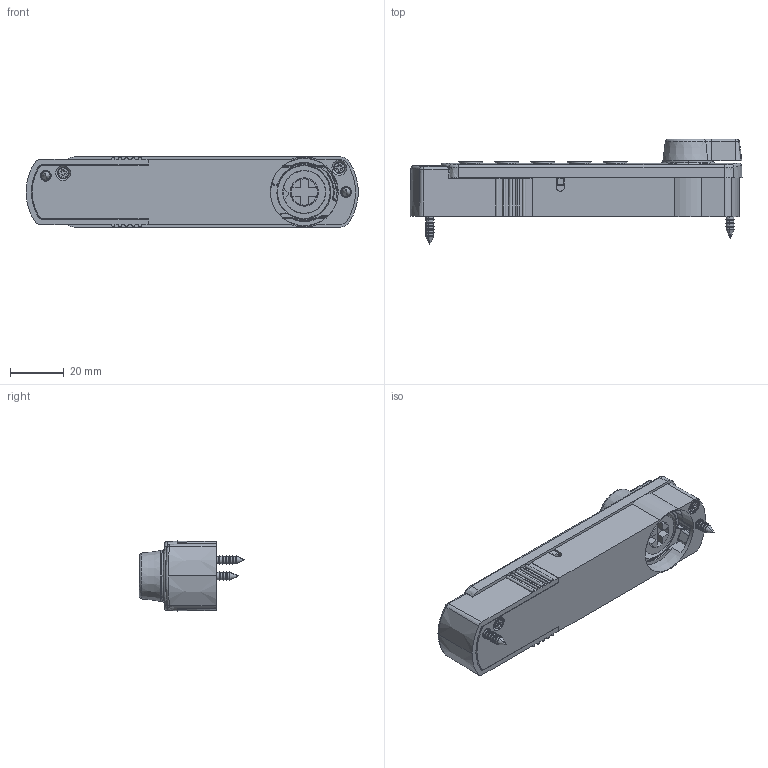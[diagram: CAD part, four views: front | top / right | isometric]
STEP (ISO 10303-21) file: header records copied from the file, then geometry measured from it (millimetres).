
FILE_DESCRIPTION (( 'STEP AP214' ), '1' );
FILE_NAME ('376021 - Customer.STEP', '2016-06-06T13:09:43', ( '' ), ( '' ), 'SwSTEP 2.0', 'SolidWorks 2016', '' );
FILE_SCHEMA (( 'AUTOMOTIVE_DESIGN' ));
Length unit declared in the file: millimetre
Products named in the file (14): 376021 - Customer; pan head tapping screw_am_PHT 3.5-type I-AB-25-S; 9235409 - AM1; 8401063; 8501308; 6603270_; flat countersunk head tapping screw_am_FLATCKT 2.5-type IA-D-10-S; 9247333; hand-09asm; 9235410; 8401062; 8401064; M2300SB10(COM); Part2^3760 - Customer
Assembly tree (15 placements, depth 3):
  376021 - Customer
    pan head tapping screw_am_PHT 3.5-type I-AB-25-S  x2
    hand-09asm
      8401064
      8501308
      M2300SB10(COM)
    flat countersunk head tapping screw_am_FLATCKT 2.5-type IA-D-10-S  x3
    9235410
    8401062
    8401063
    9235409 - AM1
    6603270_
    9247333
  Part2^3760 - Customer
Bounding box: 123.99 x 39.42 x 26.16 mm (x, y, z)
Volume: 37251.9 mm3; surface area: 43098.8 mm2
Topology: 37 solids, 37 shells, 2317 faces, 5824 edges, 3576 vertices
Faces by surface type: plane 867, cylinder 581, cone 429, bspline 354, torus 74, sphere 12
Entity records: 72992 total; most frequent: CARTESIAN_POINT 25485, ORIENTED_EDGE 9858, DIRECTION 8227, EDGE_CURVE 4929, VERTEX_POINT 3090, AXIS2_PLACEMENT_3D 2777, LINE 2673, VECTOR 2673
